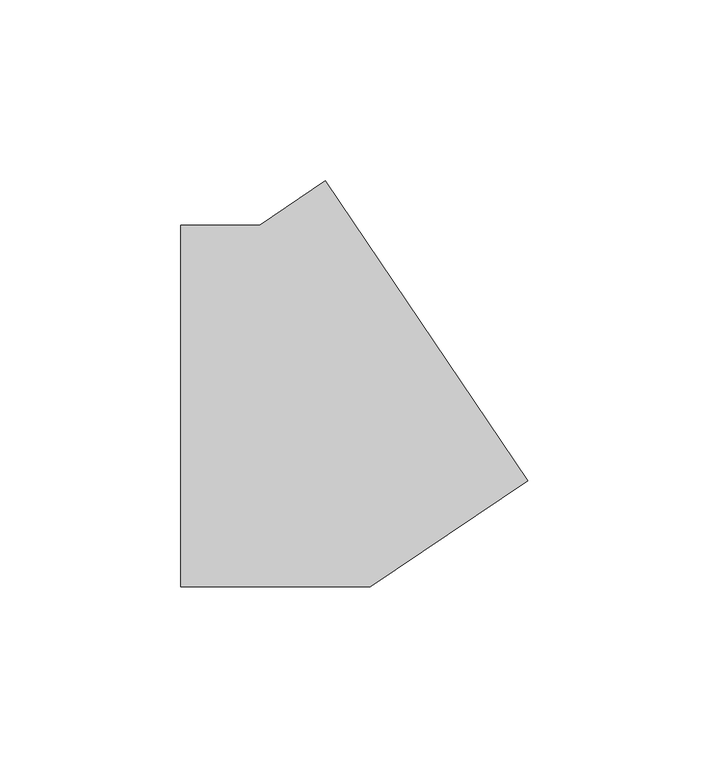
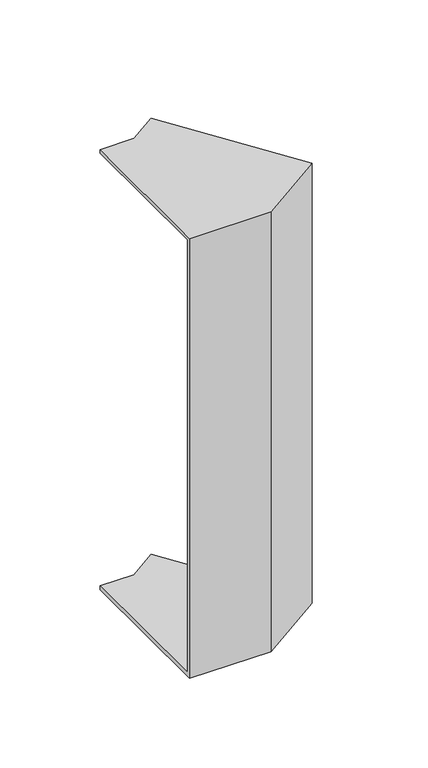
"""IFC4 building model written with IfcOpenShell, lengths in millimetres: cable carrier fitting geometry, ADSK_Поворот вертикальный внутренний_Минимальный размер : Неперфорированный."""

from ifc_helpers import new_model, si_unit, origin, place, context, project, spatial, faceted_brep, source, transform, mapped, element, save


def cable_carrier_fitting_a1beeaea(model_context):
    return source(origin(), model_context, "Body", "Brep", [
        faceted_brep([(-37.1017216, -50.0, 150.0), (-37.1017216, 50.0, 150.0), (-37.1017216, 50.0, 147.46), (-37.1017216, -47.46, 147.46), (-37.1017216, -47.46, -147.46), (-37.1017216, 50.0, -147.46), (-37.1017216, 50.0, -150.0), (-37.1017216, -50.0, -150.0), (58.7183663, -20.7048592, 150.0), (58.7183663, -20.7048592, -150.0), (2.799076, 62.198898, -150.0), (2.799076, 62.198898, -147.46), (57.2980164, -18.5991038, -147.46), (57.2980164, -18.5991038, 147.46), (2.799076, 62.198898, 147.46), (2.799076, 62.198898, 150.0), (15.2865341, -50.0, 150.0), (-15.2865341, 50.0, 150.0), (-15.2865341, 50.0, 147.46), (14.5099781, -47.46, 147.46), (14.5099781, -47.46, -147.46), (-15.2865341, 50.0, -147.46), (-15.2865341, 50.0, -150.0), (15.2865341, -50.0, -150.0)], [[[0, 1, 2, 3, 4, 5, 6, 7]], [[8, 9, 10, 11, 12, 13, 14, 15]], [[1, 0, 16, 8, 15, 17]], [[2, 1, 17, 18]], [[3, 2, 18, 14, 13, 19]], [[4, 3, 19, 20]], [[5, 4, 20, 12, 11, 21]], [[6, 5, 21, 22]], [[7, 6, 22, 10, 9, 23]], [[0, 7, 23, 16]], [[18, 17, 15, 14]], [[20, 19, 13, 12]], [[22, 21, 11, 10]], [[16, 23, 9, 8]]]),
    ])


if __name__ == "__main__":
    model = new_model("IFC4")
    model_context = context("Model", 3, world=origin())
    ifc_project = project(units=[si_unit("LENGTHUNIT", "METRE", prefix="MILLI")], contexts=[model_context])
    site = spatial("IfcSite", under=ifc_project)
    building = spatial("IfcBuilding", under=site)
    placement = place(None, origin())
    cable_carrier_fitting_shape = cable_carrier_fitting_a1beeaea(model_context)
    element("IfcCableCarrierFitting", 1, ObjectType="ADSK_Поворот вертикальный внутренний_Минимальный размер : Неперфорированный", at=placement, inside=building, context=model_context, shape_type="MappedRepresentation", body=[
        mapped(cable_carrier_fitting_shape, transform((0.0, 0.0, 0.0), x_axis=(1.0, 0.0, 0.0), y_axis=(0.0, 1.0, 0.0), z_axis=(0.0, 0.0, 1.0))),
    ])
    save(model, "model.ifc")
